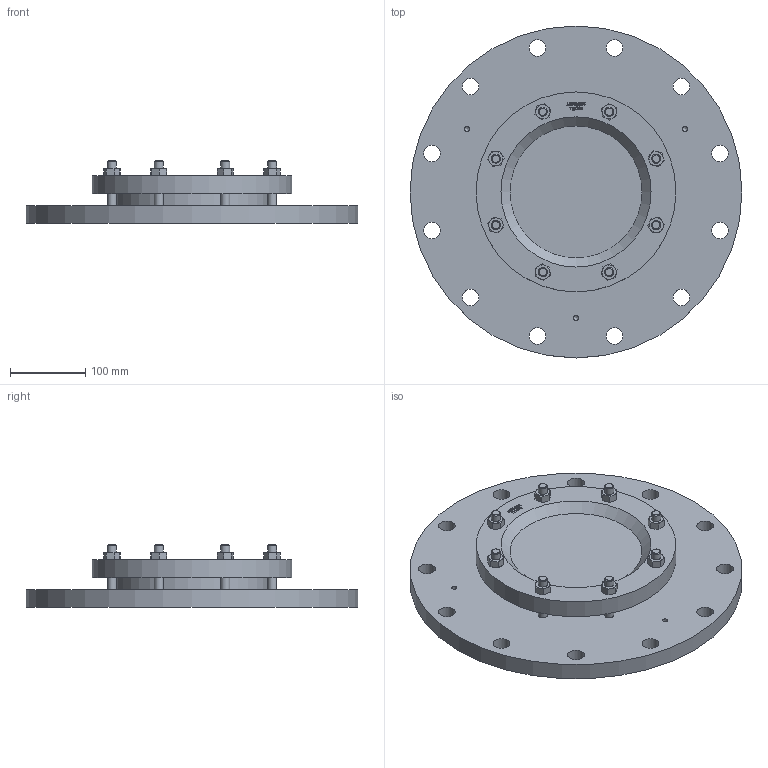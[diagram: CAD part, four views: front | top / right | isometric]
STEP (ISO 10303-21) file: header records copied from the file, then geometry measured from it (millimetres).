
FILE_DESCRIPTION(/* description */ (''),/* implementation_level */ '2;1');
FILE_NAME(/* name */ 'W:\Konstruktion_ACI\325\_STEP\325-300-6.stp',/* time_stamp */ '2022-03-02T17:00:33+01:00',/* author */ ('koslowksi'),/* organization */ (''),/* preprocessor_version */ 'ST-DEVELOPER v16.1',/* originating_system */ 'Autodesk Inventor 2016',/* authorisation */ '');
FILE_SCHEMA (('AUTOMOTIVE_DESIGN { 1 0 10303 214 3 1 1 }'));
Length unit declared in the file: millimetre
Products named in the file (1): 325-300-6
Bounding box: 440 x 440 x 83 mm (x, y, z)
Volume: 4955255.3 mm3; surface area: 436441.1 mm2
Topology: 1 solids, 1 shells, 449 faces, 1140 edges, 731 vertices
Faces by surface type: plane 199, cone 108, bspline 108, cylinder 34
Full cylindrical faces by diameter (mm): 6.647 x3, 12 x16, 22 x12, 204 x1, 265 x1, 440 x1
Entity records: 13870 total; most frequent: CARTESIAN_POINT 4017, ORIENTED_EDGE 2142, DIRECTION 1521, EDGE_CURVE 1071, VERTEX_POINT 708, EDGE_LOOP 573, AXIS2_PLACEMENT_3D 516, LINE 489
